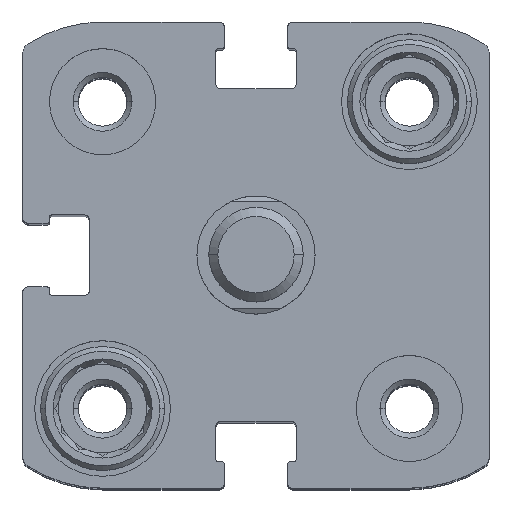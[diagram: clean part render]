
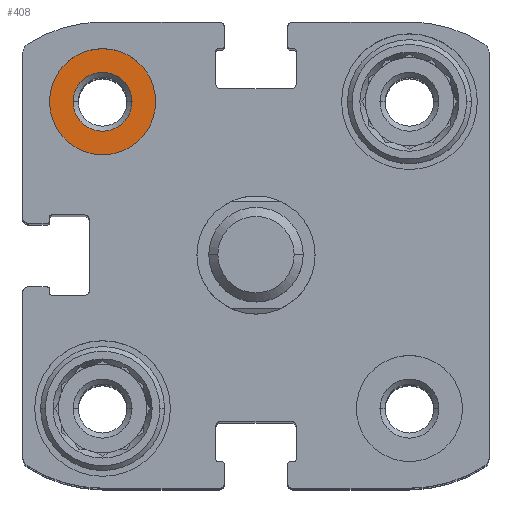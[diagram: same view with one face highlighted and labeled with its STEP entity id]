
A CAD part, top view. The second image highlights one B-rep face of the part: STEP entity #408.
In plain terms, the highlighted planar face has unit normal (0, 0, 1).
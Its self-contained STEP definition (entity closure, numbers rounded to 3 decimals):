
#408 = ADVANCED_FACE ( 'NONE', ( #1700, #5845 ), #688, .T. ) ;
#561 = ORIENTED_EDGE ( 'NONE', *, *, #11152, .T. ) ;
#688 = PLANE ( 'NONE',  #802 ) ;
#802 = AXIS2_PLACEMENT_3D ( 'NONE', #4831, #3815, #11343 ) ;
#1117 = CARTESIAN_POINT ( 'NONE',  ( -15.5, 13., -4.8 ) ) ;
#1456 = ORIENTED_EDGE ( 'NONE', *, *, #9072, .F. ) ;
#1465 = CARTESIAN_POINT ( 'NONE',  ( -10.5, 13., -4.8 ) ) ;
#1700 = FACE_OUTER_BOUND ( 'NONE', #10109, .T. ) ;
#1744 = AXIS2_PLACEMENT_3D ( 'NONE', #5693, #10918, #13076 ) ;
#1803 = VERTEX_POINT ( 'NONE', #5390 ) ;
#1814 = ORIENTED_EDGE ( 'NONE', *, *, #3599, .T. ) ;
#2243 = CIRCLE ( 'NONE', #5712, 2.5 ) ;
#2576 = AXIS2_PLACEMENT_3D ( 'NONE', #4623, #5838, #3670 ) ;
#2951 = DIRECTION ( 'NONE',  ( -1., 0., 0. ) ) ;
#3599 = EDGE_CURVE ( 'NONE', #8947, #8653, #2243, .T. ) ;
#3670 = DIRECTION ( 'NONE',  ( -1., 0., 0. ) ) ;
#3815 = DIRECTION ( 'NONE',  ( 0., 0., 1. ) ) ;
#3978 = CARTESIAN_POINT ( 'NONE',  ( -17.5, 13., -4.8 ) ) ;
#4623 = CARTESIAN_POINT ( 'NONE',  ( -13., 13., -4.8 ) ) ;
#4764 = VERTEX_POINT ( 'NONE', #3978 ) ;
#4831 = CARTESIAN_POINT ( 'NONE',  ( -13., 17.5, -4.8 ) ) ;
#4996 = DIRECTION ( 'NONE',  ( 0., 0., -1. ) ) ;
#5390 = CARTESIAN_POINT ( 'NONE',  ( -8.5, 13., -4.8 ) ) ;
#5693 = CARTESIAN_POINT ( 'NONE',  ( -13., 13., -4.8 ) ) ;
#5712 = AXIS2_PLACEMENT_3D ( 'NONE', #8106, #4996, #2951 ) ;
#5826 = CIRCLE ( 'NONE', #2576, 2.5 ) ;
#5838 = DIRECTION ( 'NONE',  ( 0., 0., -1. ) ) ;
#5845 = FACE_BOUND ( 'NONE', #7613, .T. ) ;
#7613 = EDGE_LOOP ( 'NONE', ( #561, #1814 ) ) ;
#7820 = CIRCLE ( 'NONE', #1744, 4.5 ) ;
#8106 = CARTESIAN_POINT ( 'NONE',  ( -13., 13., -4.8 ) ) ;
#8653 = VERTEX_POINT ( 'NONE', #1465 ) ;
#8783 = ORIENTED_EDGE ( 'NONE', *, *, #12825, .F. ) ;
#8947 = VERTEX_POINT ( 'NONE', #1117 ) ;
#9072 = EDGE_CURVE ( 'NONE', #1803, #4764, #12053, .T. ) ;
#9675 = CARTESIAN_POINT ( 'NONE',  ( -13., 13., -4.8 ) ) ;
#10109 = EDGE_LOOP ( 'NONE', ( #8783, #1456 ) ) ;
#10343 = AXIS2_PLACEMENT_3D ( 'NONE', #9675, #11954, #12976 ) ;
#10918 = DIRECTION ( 'NONE',  ( 0., 0., -1. ) ) ;
#11152 = EDGE_CURVE ( 'NONE', #8653, #8947, #5826, .T. ) ;
#11343 = DIRECTION ( 'NONE',  ( 1., 0., 0. ) ) ;
#11954 = DIRECTION ( 'NONE',  ( 0., 0., -1. ) ) ;
#12053 = CIRCLE ( 'NONE', #10343, 4.5 ) ;
#12825 = EDGE_CURVE ( 'NONE', #4764, #1803, #7820, .T. ) ;
#12976 = DIRECTION ( 'NONE',  ( -1., 0., 0. ) ) ;
#13076 = DIRECTION ( 'NONE',  ( -1., 0., 0. ) ) ;
